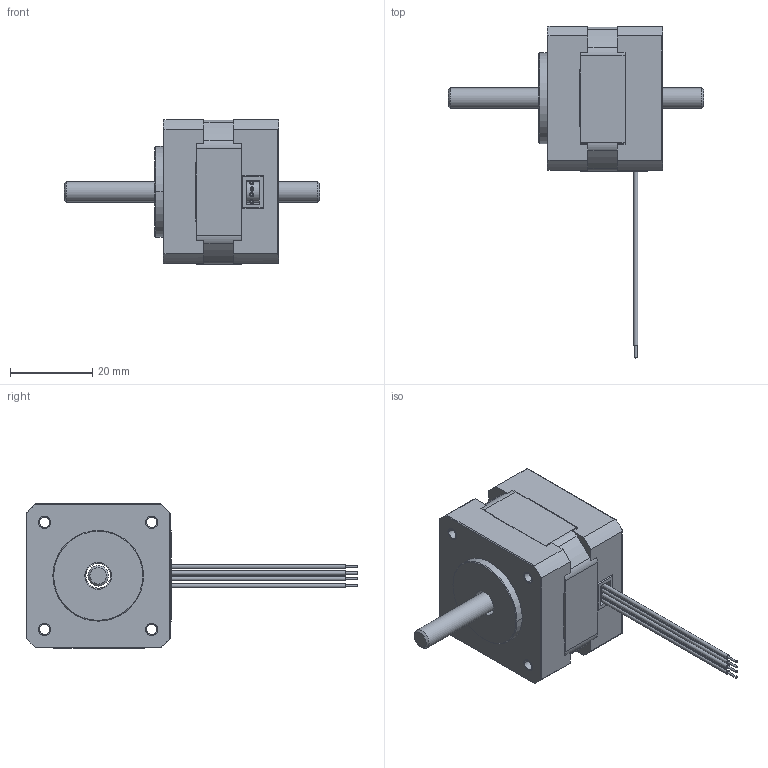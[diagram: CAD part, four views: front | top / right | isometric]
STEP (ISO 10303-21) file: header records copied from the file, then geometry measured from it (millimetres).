
FILE_DESCRIPTION( ('This file contains a STEP AP42 implementation' ,'as created by ZW3D STEP Interface translator.' ,'') ,'2;1' );
FILE_NAME( '35HXXH-XXXXX-XXX_潠趙婦釐.stp' ,'26 114.1618 9', (''), ('ZWCAD Software Co.'), 'Version 1.0', 'ZW3D to STEP translator', '' );
FILE_SCHEMA(('AUTOMOTIVE_DESIGN { 1 0 10303 214 1 1 1 1 }'));
Length unit declared in the file: millimetre
Products named in the file (1): 0
Bounding box: 62 x 80.51 x 35.09 mm (x, y, z)
Volume: 16472.5 mm3; surface area: 17133.8 mm2
Topology: 6 solids, 10 shells, 466 faces, 1389 edges, 897 vertices
Faces by surface type: plane 266, cylinder 167, bspline 29, cone 4
Full cylindrical faces by diameter (mm): 0.5 x8, 1 x2, 1.2 x8, 3.2 x4, 3.4 x4, 5 x1, 5.8 x4, 6 x1, 6.5 x1, 27.79 x1
Entity records: 16978 total; most frequent: CARTESIAN_POINT 3584, ORIENTED_EDGE 2794, DIRECTION 2707, EDGE_CURVE 1389, AXIS2_PLACEMENT_3D 930, VERTEX_POINT 897, VECTOR 847, LINE 847
